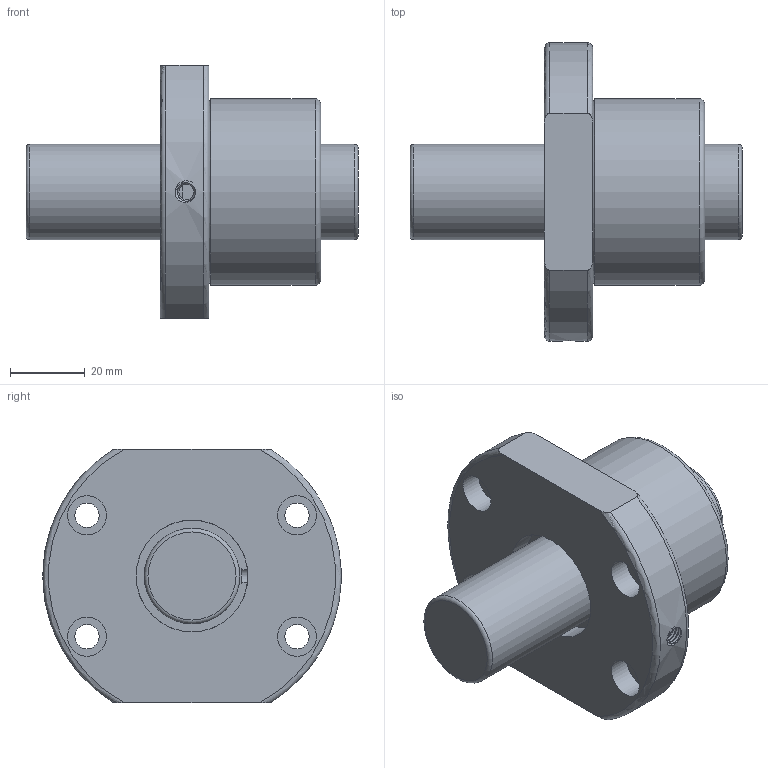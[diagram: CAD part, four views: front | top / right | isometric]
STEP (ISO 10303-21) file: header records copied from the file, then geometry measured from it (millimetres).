
FILE_DESCRIPTION(/* description */ ('Unknown','CAx-IF Rec.Pracs.---Representation and Presentation of Product Manufacturing Information (PMI)---4.0---2014-10-13','CAx-IF Rec.Pracs.---3D Tessellated Geometry---0.4---2014-09-14','2;1'),/* implementation_level */ '2;1');
FILE_NAME(/* name */ 'SFK2502',/* time_stamp */ '2020-12-06T16:17:45+08:00',/* author */ ('Unknown'),/* organization */ ('Unknown'),/* preprocessor_version */ 'ST-DEVELOPER v16.7',/* originating_system */ 'Solid Edge',/* authorisation */ 'Unknown');
FILE_SCHEMA (('AP242_MANAGED_MODEL_BASED_3D_ENGINEERING_MIM_LF { 1 0 10303 442 1 1 4 }'));
Length unit declared in the file: millimetre
Products named in the file (1): SFK2502
Bounding box: 89 x 80 x 68 mm (x, y, z)
Volume: 137447.4 mm3; surface area: 24350.2 mm2
Topology: 1 solids, 1 shells, 44 faces, 97 edges, 63 vertices
Faces by surface type: cylinder 18, plane 15, torus 8, bspline 2, cone 1
Full cylindrical faces by diameter (mm): 4 x1, 6.5 x4, 10.5 x4, 25.6 x2, 30 x2, 50 x1
Entity records: 3505 total; most frequent: CARTESIAN_POINT 2555, DIRECTION 189, ORIENTED_EDGE 146, AXIS2_PLACEMENT_3D 90, EDGE_LOOP 81, FACE_BOUND 81, EDGE_CURVE 73, VERTEX_POINT 58
